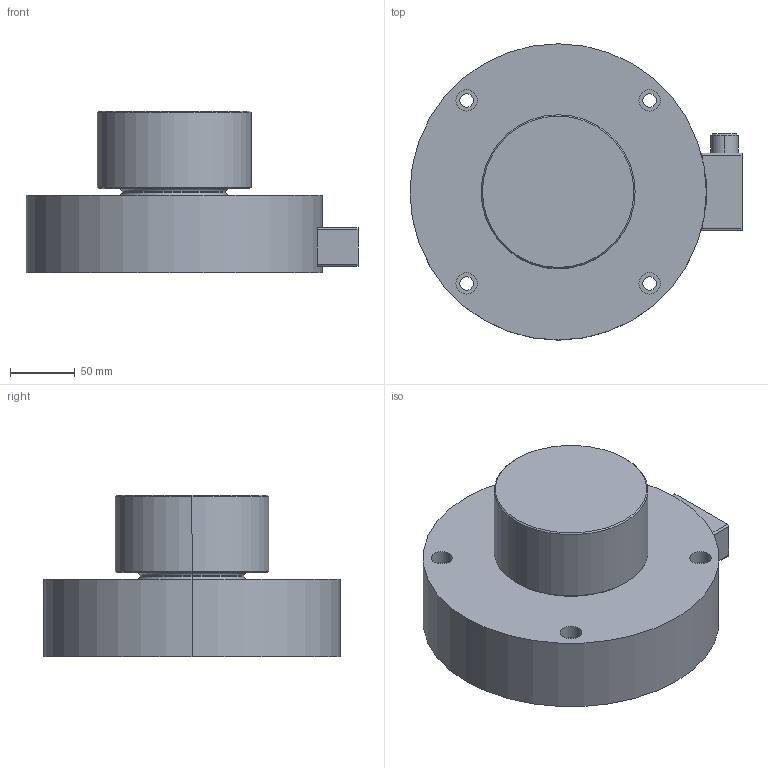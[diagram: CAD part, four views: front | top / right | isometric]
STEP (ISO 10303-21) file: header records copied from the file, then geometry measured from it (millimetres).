
FILE_DESCRIPTION((''),'1');
FILE_NAME('LKLF_200000_kg.step','2019-02-08T08:34:57',(''),(''),'','','');
FILE_SCHEMA(('AUTOMOTIVE_DESIGN { 1 0 10303 214 1 1 1 1 }'));
Products named in the file (5): LKLF 200000_kg; LKLF base 01; LKLF body 01; LKLF part 02; LKLF part 03
Assembly tree (4 placements, depth 2):
  LKLF 200000_kg
    LKLF base 01
    LKLF body 01
    LKLF part 02
    LKLF part 03
Bounding box: 256.6 x 229 x 125 mm (x, y, z)
Volume: 3160962.7 mm3; surface area: 194364.7 mm2
Topology: 4 solids, 4 shells, 76 faces, 160 edges, 102 vertices
Faces by surface type: cylinder 41, plane 20, cone 10, torus 4, sphere 1
Entity records: 2864 total; most frequent: DIRECTION 414, CARTESIAN_POINT 379, ORIENTED_EDGE 320, AXIS2_PLACEMENT_3D 177, EDGE_CURVE 160, VERTEX_POINT 102, EDGE_LOOP 96, CIRCLE 96
